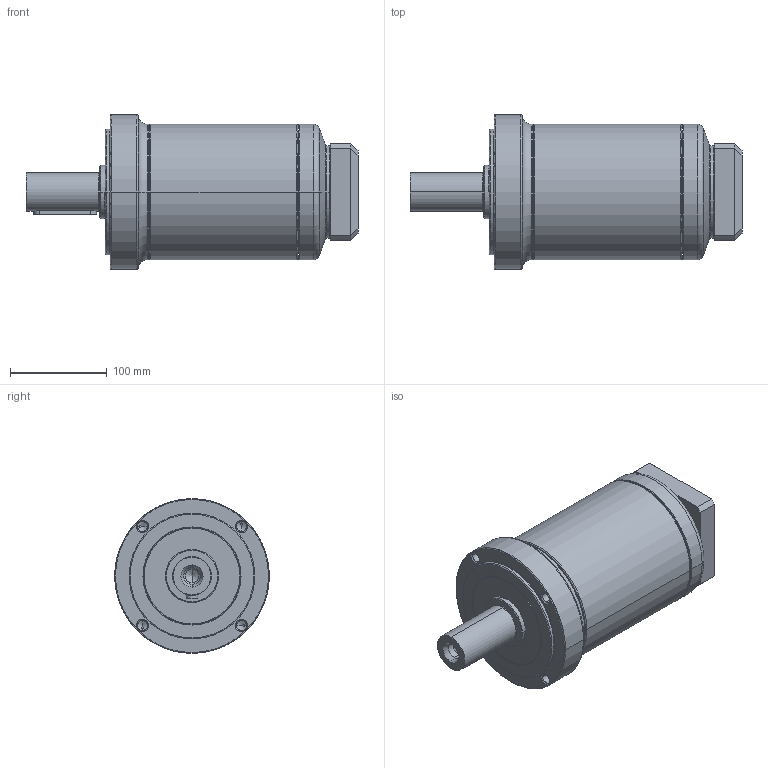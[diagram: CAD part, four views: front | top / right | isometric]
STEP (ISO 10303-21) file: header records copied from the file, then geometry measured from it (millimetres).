
FILE_DESCRIPTION((''),'2;1');
FILE_NAME('PG2-160_3ST_24-P0411500101_ASM','2016-04-19T',('d01943'),(''),'PRO/ENGINEER BY PARAMETRIC TECHNOLOGY CORPORATION, 2008410','PRO/ENGINEER BY PARAMETRIC TECHNOLOGY CORPORATION, 2008410','');
FILE_SCHEMA(('CONFIG_CONTROL_DESIGN'));
Length unit declared in the file: millimetre
Products named in the file (9): P1325510001; P0273500001; P1324500101; P0350501103; P0411500101; P0503500008; P0941501001; P1702500001; PG2-160_3ST_24-P0411500101_ASM
Assembly tree (8 placements, depth 2):
  PG2-160_3ST_24-P0411500101_ASM
    P1325510001
    P0273500001
    P1324500101
    P0350501103
    P0411500101
    P0503500008
    P0941501001
    P1702500001
Bounding box: 343.5 x 160 x 160 mm (x, y, z)
Volume: 2492787.1 mm3; surface area: 370737.3 mm2
Topology: 8 solids, 9 shells, 478 faces, 1042 edges, 600 vertices
Faces by surface type: cylinder 143, cone 140, torus 100, plane 79, bspline 16
Entity records: 17649 total; most frequent: CARTESIAN_POINT 6906, DIRECTION 2462, ORIENTED_EDGE 2028, AXIS2_PLACEMENT_3D 1058, EDGE_CURVE 1014, VERTEX_POINT 600, CIRCLE 579, EDGE_LOOP 542
